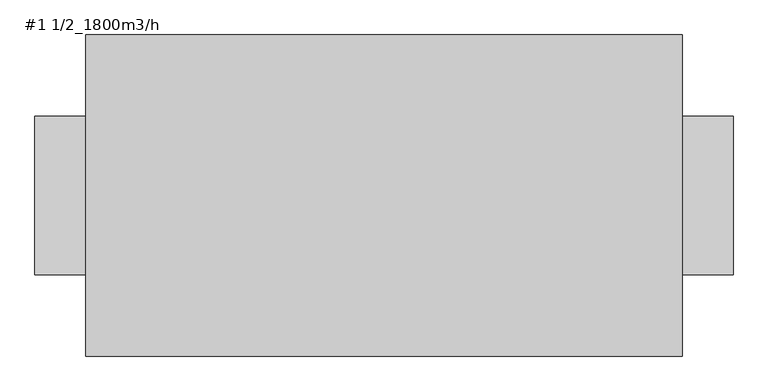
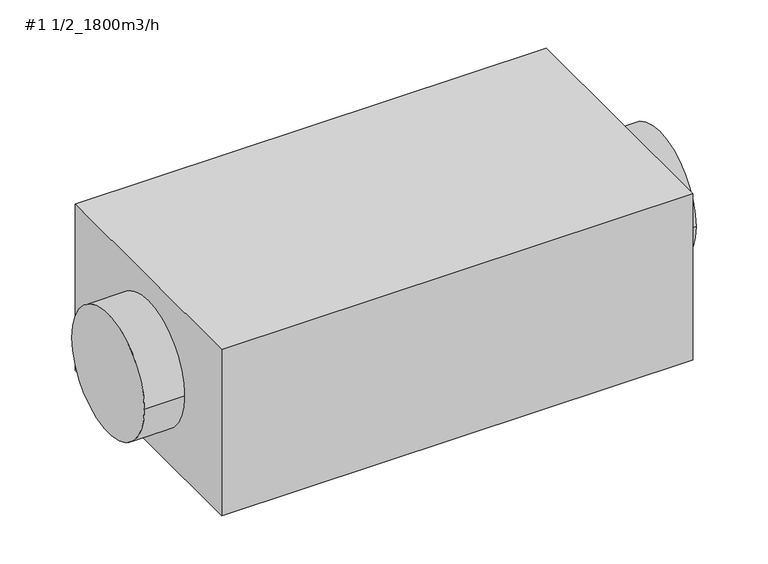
"""IFC4 building model written with IfcOpenShell, lengths in millimetres: unitary equipment geometry, 11030_FAN_消音ボックス付送風機 : #1 1/2_1800m3/h."""

from ifc_helpers import new_model, si_unit, point, frame, origin, origin_2d, place, context, project, spatial, polyline, circle_curve, trimmed, segment, composite_curve, outline, extrude, source, transform, mapped, element, save


def unitary_equipment_1_1_2_1800m3_h_bb74406a(model_context):
    return source(origin(), model_context, "Body", "SweptSolid", [
        extrude(outline(composite_curve([segment(trimmed(circle_curve(origin_2d(), 125.0), [point((-125.0, 0.0))], [point((125.0, 0.0))], False, "CARTESIAN"), True, "CONTINUOUS"), segment(trimmed(circle_curve(origin_2d(), 125.0), [point((125.0, 0.0))], [point((-125.0, 0.0))], False, "CARTESIAN"), True, "CONTINUOUS")], self_intersect=False)), frame((-549.0, 0.0, 0.0), z_axis=(1.0, 0.0, 0.0), x_axis=(0.0, 1.0, 0.0)), (0.0, 0.0, 1.0), 80.0),
        extrude(outline(composite_curve([segment(trimmed(circle_curve(origin_2d(), 125.0), [point((-125.0, 0.0))], [point((125.0, 0.0))], False, "CARTESIAN"), True, "CONTINUOUS"), segment(trimmed(circle_curve(origin_2d(), 125.0), [point((125.0, 0.0))], [point((-125.0, 0.0))], False, "CARTESIAN"), True, "CONTINUOUS")], self_intersect=False)), frame((469.0, 0.0, 0.0), z_axis=(1.0, 0.0, 0.0), x_axis=(0.0, 1.0, 0.0)), (0.0, 0.0, 1.0), 80.0),
        extrude(outline(polyline([(469.0, -252.5), (-469.0, -252.5), (-469.0, 252.5), (469.0, 252.5), (469.0, -252.5)])), frame((0.0, 0.0, -175.0), z_axis=(0.0, 0.0, 1.0), x_axis=(1.0, 0.0, 0.0)), (0.0, 0.0, 1.0), 350.0),
    ])


if __name__ == "__main__":
    model = new_model("IFC4")
    model_context = context("Model", 3, world=origin())
    ifc_project = project(units=[si_unit("LENGTHUNIT", "METRE", prefix="MILLI")], contexts=[model_context])
    site = spatial("IfcSite", under=ifc_project)
    building = spatial("IfcBuilding", under=site)
    placement = place(None, origin())
    unitary_equipment_1_1_2_1800m3_h_shape = unitary_equipment_1_1_2_1800m3_h_bb74406a(model_context)
    element("IfcUnitaryEquipment", 1, ObjectType="11030_FAN_消音ボックス付送風機 : #1 1/2_1800m3/h", at=placement, inside=building, context=model_context, shape_type="MappedRepresentation", body=[
        mapped(unitary_equipment_1_1_2_1800m3_h_shape, transform((0.0, 0.0, 0.0), x_axis=(1.0, 0.0, 0.0), y_axis=(0.0, 1.0, 0.0), z_axis=(0.0, 0.0, 1.0))),
    ])
    save(model, "model.ifc")
